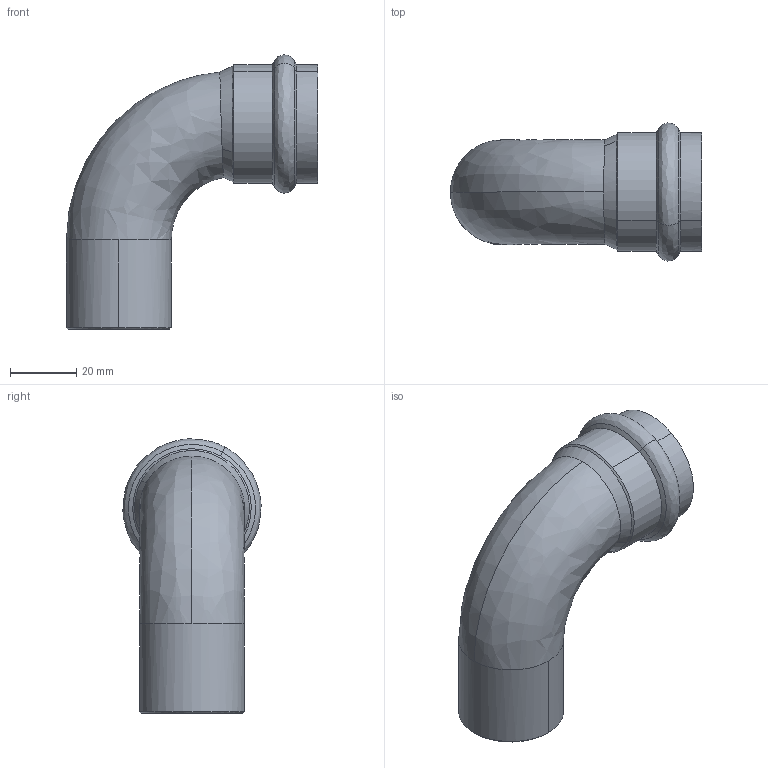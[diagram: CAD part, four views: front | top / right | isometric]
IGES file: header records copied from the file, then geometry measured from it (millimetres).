
Start section: 3D InterOp IGES (Version 25 0 1), Spatial Corp. Copyright (c) 1999-2007.
Global section: file name: pim0004437.igs; native system: Spatial Corp.; preprocessor: 3D InterOp ACIS/IGES; author: Cad-Pim; organization: TransMagic, Inc.; date: 20150430.072246; units: millimetre
Bounding box: 75.85 x 41.78 x 82.89 mm (x, y, z)
Volume: 72424.8 mm3; surface area: 15753.4 mm2
Topology: 1 solids, 1 shells, 25 faces, 66 edges, 44 vertices
Faces by surface type: cone 10, cylinder 8, bspline 7
